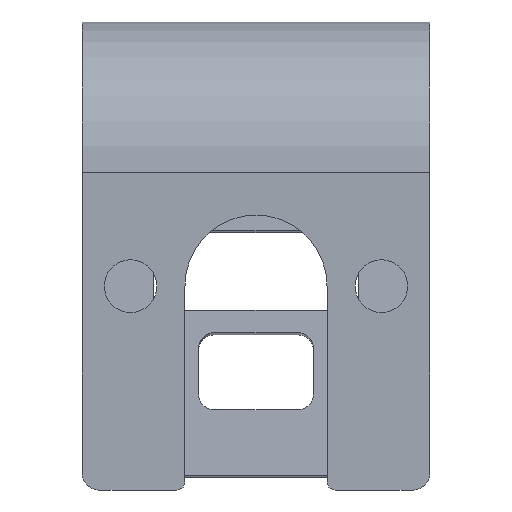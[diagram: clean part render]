
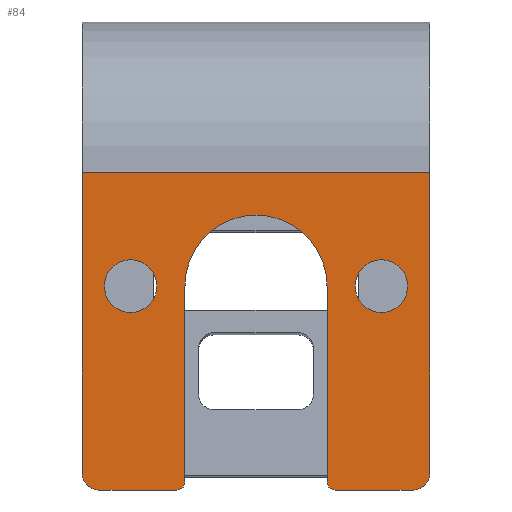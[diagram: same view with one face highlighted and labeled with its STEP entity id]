
A CAD part, front view. The second image highlights one B-rep face of the part: STEP entity #84.
In plain terms, the highlighted planar face has unit normal (0, -1, 0).
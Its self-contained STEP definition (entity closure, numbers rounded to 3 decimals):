
#84 = ADVANCED_FACE( '', ( #390, #391, #392 ), #393, .F. );
#390 = FACE_BOUND( '', #1053, .T. );
#391 = FACE_OUTER_BOUND( '', #1054, .T. );
#392 = FACE_BOUND( '', #1055, .T. );
#393 = PLANE( '', #1056 );
#1053 = EDGE_LOOP( '', ( #1817 ) );
#1054 = EDGE_LOOP( '', ( #1818, #1819, #1820, #1821, #1822, #1823, #1824, #1825, #1826, #1827, #1828, #1829 ) );
#1055 = EDGE_LOOP( '', ( #1830 ) );
#1056 = AXIS2_PLACEMENT_3D( '', #1831, #1832, #1833 );
#1817 = ORIENTED_EDGE( '', *, *, #4075, .T. );
#1818 = ORIENTED_EDGE( '', *, *, #4026, .T. );
#1819 = ORIENTED_EDGE( '', *, *, #4011, .F. );
#1820 = ORIENTED_EDGE( '', *, *, #3982, .F. );
#1821 = ORIENTED_EDGE( '', *, *, #4076, .F. );
#1822 = ORIENTED_EDGE( '', *, *, #4077, .T. );
#1823 = ORIENTED_EDGE( '', *, *, #4078, .T. );
#1824 = ORIENTED_EDGE( '', *, *, #4079, .T. );
#1825 = ORIENTED_EDGE( '', *, *, #4080, .F. );
#1826 = ORIENTED_EDGE( '', *, *, #4081, .F. );
#1827 = ORIENTED_EDGE( '', *, *, #4082, .F. );
#1828 = ORIENTED_EDGE( '', *, *, #4083, .F. );
#1829 = ORIENTED_EDGE( '', *, *, #4073, .T. );
#1830 = ORIENTED_EDGE( '', *, *, #4084, .T. );
#1831 = CARTESIAN_POINT( '', ( 20.8, 0., 38. ) );
#1832 = DIRECTION( '', ( 0., 1., 0. ) );
#1833 = DIRECTION( '', ( 0., 0., 1. ) );
#3982 = EDGE_CURVE( '', #4712, #4713, #4714, .T. );
#4011 = EDGE_CURVE( '', #4713, #4770, #4771, .T. );
#4026 = EDGE_CURVE( '', #4798, #4770, #4799, .T. );
#4073 = EDGE_CURVE( '', #4885, #4798, #4886, .T. );
#4075 = EDGE_CURVE( '', #4888, #4888, #4889, .T. );
#4076 = EDGE_CURVE( '', #4890, #4712, #4891, .T. );
#4077 = EDGE_CURVE( '', #4890, #4892, #4893, .T. );
#4078 = EDGE_CURVE( '', #4892, #4894, #4895, .T. );
#4079 = EDGE_CURVE( '', #4894, #4896, #4897, .T. );
#4080 = EDGE_CURVE( '', #4898, #4896, #4899, .T. );
#4081 = EDGE_CURVE( '', #4900, #4898, #4901, .T. );
#4082 = EDGE_CURVE( '', #4902, #4900, #4903, .T. );
#4083 = EDGE_CURVE( '', #4885, #4902, #4904, .T. );
#4084 = EDGE_CURVE( '', #4905, #4905, #4906, .T. );
#4712 = VERTEX_POINT( '', #5936 );
#4713 = VERTEX_POINT( '', #5937 );
#4714 = LINE( '', #5938, #5939 );
#4770 = VERTEX_POINT( '', #6006 );
#4771 = CIRCLE( '', #6007, 2. );
#4798 = VERTEX_POINT( '', #6041 );
#4799 = LINE( '', #6042, #6043 );
#4885 = VERTEX_POINT( '', #6152 );
#4886 = LINE( '', #6153, #6154 );
#4888 = VERTEX_POINT( '', #6156 );
#4889 = CIRCLE( '', #6157, 3.15 );
#4890 = VERTEX_POINT( '', #6158 );
#4891 = CIRCLE( '', #6159, 1. );
#4892 = VERTEX_POINT( '', #6160 );
#4893 = LINE( '', #6161, #6162 );
#4894 = VERTEX_POINT( '', #6163 );
#4895 = CIRCLE( '', #6164, 8.5 );
#4896 = VERTEX_POINT( '', #6165 );
#4897 = LINE( '', #6166, #6167 );
#4898 = VERTEX_POINT( '', #6168 );
#4899 = CIRCLE( '', #6169, 1. );
#4900 = VERTEX_POINT( '', #6170 );
#4901 = LINE( '', #6171, #6172 );
#4902 = VERTEX_POINT( '', #6173 );
#4903 = CIRCLE( '', #6174, 2. );
#4904 = LINE( '', #6175, #6176 );
#4905 = VERTEX_POINT( '', #6177 );
#4906 = CIRCLE( '', #6178, 3.15 );
#5936 = CARTESIAN_POINT( '', ( -9.5, 0., 0. ) );
#5937 = CARTESIAN_POINT( '', ( -18.8, 0., 0. ) );
#5938 = CARTESIAN_POINT( '', ( 20.8, 0., 0. ) );
#5939 = VECTOR( '', #7656, 1000. );
#6006 = CARTESIAN_POINT( '', ( -20.8, 0., 2. ) );
#6007 = AXIS2_PLACEMENT_3D( '', #7719, #7720, #7721 );
#6041 = CARTESIAN_POINT( '', ( -20.8, 0., 38. ) );
#6042 = CARTESIAN_POINT( '', ( -20.8, 0., 38. ) );
#6043 = VECTOR( '', #7750, 1000. );
#6152 = CARTESIAN_POINT( '', ( 20.8, 0., 38. ) );
#6153 = CARTESIAN_POINT( '', ( 20.8, 0., 38. ) );
#6154 = VECTOR( '', #7843, 1000. );
#6156 = CARTESIAN_POINT( '', ( 18.15, 0., 24.4 ) );
#6157 = AXIS2_PLACEMENT_3D( '', #7847, #7848, #7849 );
#6158 = CARTESIAN_POINT( '', ( -8.5, 0., 1. ) );
#6159 = AXIS2_PLACEMENT_3D( '', #7850, #7851, #7852 );
#6160 = CARTESIAN_POINT( '', ( -8.5, 0., 24.4 ) );
#6161 = CARTESIAN_POINT( '', ( -8.5, 0., 1. ) );
#6162 = VECTOR( '', #7853, 1000. );
#6163 = CARTESIAN_POINT( '', ( 8.5, 0., 24.4 ) );
#6164 = AXIS2_PLACEMENT_3D( '', #7854, #7855, #7856 );
#6165 = CARTESIAN_POINT( '', ( 8.5, 0., 1. ) );
#6166 = CARTESIAN_POINT( '', ( 8.5, 0., 24.4 ) );
#6167 = VECTOR( '', #7857, 1000. );
#6168 = CARTESIAN_POINT( '', ( 9.5, 0., 0. ) );
#6169 = AXIS2_PLACEMENT_3D( '', #7858, #7859, #7860 );
#6170 = CARTESIAN_POINT( '', ( 18.8, 0., 0. ) );
#6171 = CARTESIAN_POINT( '', ( 20.8, 0., 0. ) );
#6172 = VECTOR( '', #7861, 1000. );
#6173 = CARTESIAN_POINT( '', ( 20.8, 0., 2. ) );
#6174 = AXIS2_PLACEMENT_3D( '', #7862, #7863, #7864 );
#6175 = CARTESIAN_POINT( '', ( 20.8, 0., 38. ) );
#6176 = VECTOR( '', #7865, 1000. );
#6177 = CARTESIAN_POINT( '', ( -11.85, 0., 24.4 ) );
#6178 = AXIS2_PLACEMENT_3D( '', #7866, #7867, #7868 );
#7656 = DIRECTION( '', ( -1., 0., 0. ) );
#7719 = CARTESIAN_POINT( '', ( -18.8, 0., 2. ) );
#7720 = DIRECTION( '', ( 0., 1., 0. ) );
#7721 = DIRECTION( '', ( 1., 0., 0. ) );
#7750 = DIRECTION( '', ( 0., 0., -1. ) );
#7843 = DIRECTION( '', ( -1., 0., 0. ) );
#7847 = CARTESIAN_POINT( '', ( 15., 0., 24.4 ) );
#7848 = DIRECTION( '', ( 0., 1., 0. ) );
#7849 = DIRECTION( '', ( 1., 0., 0. ) );
#7850 = CARTESIAN_POINT( '', ( -9.5, 0., 1. ) );
#7851 = DIRECTION( '', ( 0., 1., 0. ) );
#7852 = DIRECTION( '', ( 1., 0., 0. ) );
#7853 = DIRECTION( '', ( 0., 0., 1. ) );
#7854 = CARTESIAN_POINT( '', ( 0., 0., 24.4 ) );
#7855 = DIRECTION( '', ( 0., 1., 0. ) );
#7856 = DIRECTION( '', ( 1., 0., 0. ) );
#7857 = DIRECTION( '', ( 0., 0., -1. ) );
#7858 = CARTESIAN_POINT( '', ( 9.5, 0., 1. ) );
#7859 = DIRECTION( '', ( 0., 1., 0. ) );
#7860 = DIRECTION( '', ( 1., 0., 0. ) );
#7861 = DIRECTION( '', ( -1., 0., 0. ) );
#7862 = CARTESIAN_POINT( '', ( 18.8, 0., 2. ) );
#7863 = DIRECTION( '', ( 0., 1., 0. ) );
#7864 = DIRECTION( '', ( 1., 0., 0. ) );
#7865 = DIRECTION( '', ( 0., 0., -1. ) );
#7866 = CARTESIAN_POINT( '', ( -15., 0., 24.4 ) );
#7867 = DIRECTION( '', ( 0., 1., 0. ) );
#7868 = DIRECTION( '', ( 1., 0., 0. ) );
